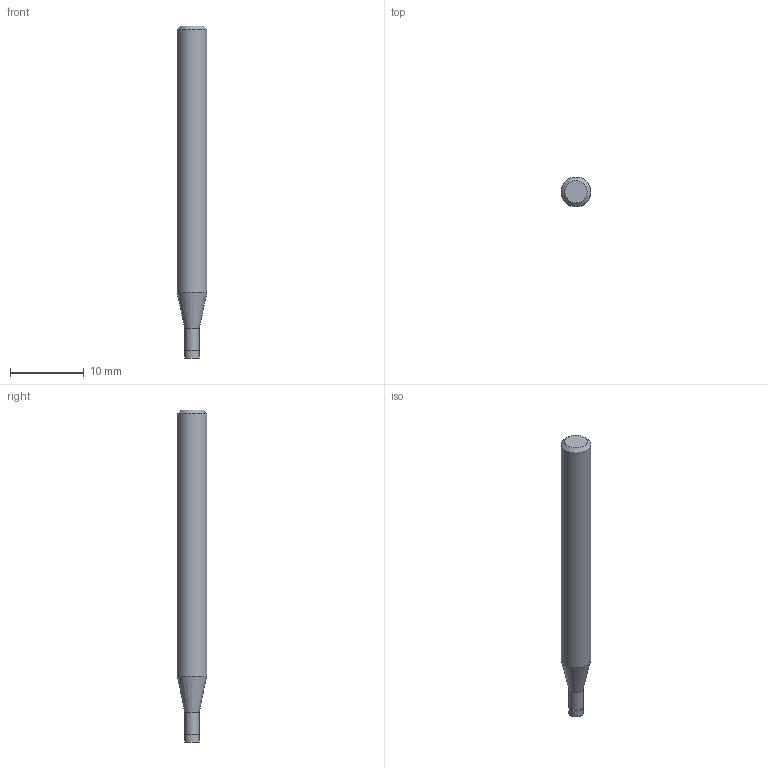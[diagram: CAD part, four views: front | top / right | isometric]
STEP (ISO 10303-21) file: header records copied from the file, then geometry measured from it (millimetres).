
FILE_DESCRIPTION((''),'2;1');
FILE_NAME('C:\Users\nsx150\AppData\Local\Temp\Mastercam 2021\CC00YWH0Y5\TEMP.step','2021-04-08T15:19:49',(''),(''),'STEP Write','Mastercam 2021 ... CNC Software, Inc.','');
FILE_SCHEMA(('AUTOMOTIVE_DESIGN'));
Length unit declared in the file: millimetre
Products named in the file (1): None
Bounding box: 4 x 4 x 45 mm (x, y, z)
Volume: 499.8 mm3; surface area: 542.9 mm2
Topology: 2 solids, 2 shells, 9 faces, 12 edges, 7 vertices
Faces by surface type: plane 4, cylinder 3, cone 2
Full cylindrical faces by diameter (mm): 1.94 x1, 2 x1, 4 x1
Entity records: 211 total; most frequent: DIRECTION 36, CARTESIAN_POINT 25, AXIS2_PLACEMENT_3D 18, ORIENTED_EDGE 14, EDGE_LOOP 14, STYLED_ITEM 12, ADVANCED_FACE 9, FACE_BOUND 8
